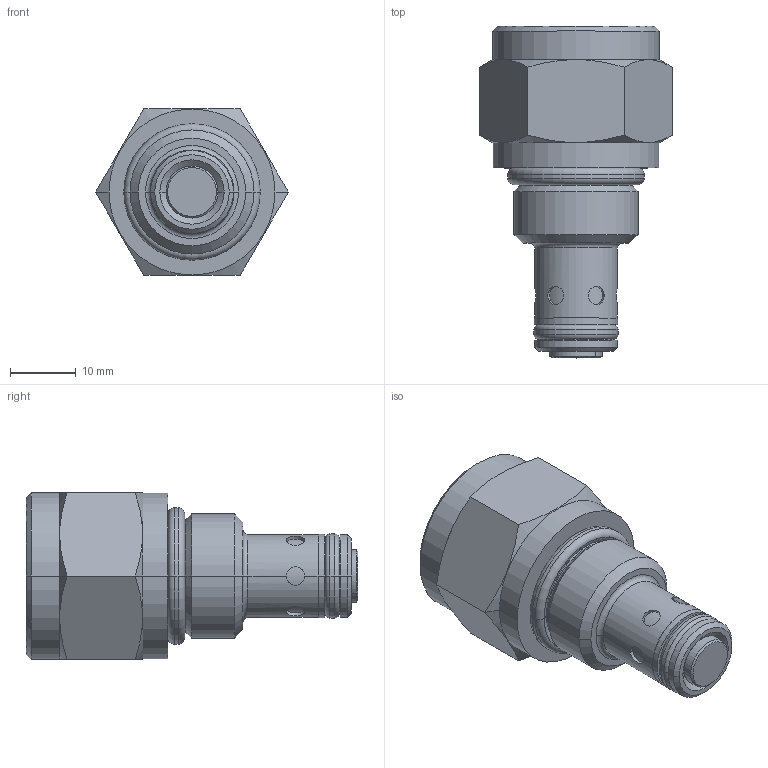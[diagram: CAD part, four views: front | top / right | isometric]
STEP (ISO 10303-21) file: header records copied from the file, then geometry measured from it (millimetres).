
FILE_DESCRIPTION((''),'2;1');
FILE_NAME('CVRP-08-_-_-OUT','2015-09-03T',('torrese'),(''),'PRO/ENGINEER BY PARAMETRIC TECHNOLOGY CORPORATION, 2015070','PRO/ENGINEER BY PARAMETRIC TECHNOLOGY CORPORATION, 2015070','');
FILE_SCHEMA(('CONFIG_CONTROL_DESIGN','GEOMETRIC_VALIDATION_PROPERTIES_MIM'));
Length unit declared in the file: inch
Products named in the file (1): CVRP-08-_-_-OUT
Bounding box: 29.33 x 50.52 x 25.4 mm (x, y, z)
Volume: 16838.4 mm3; surface area: 4524.4 mm2
Topology: 1 solids, 1 shells, 96 faces, 196 edges, 116 vertices
Faces by surface type: cylinder 46, plane 18, cone 18, torus 14
Entity records: 6148 total; most frequent: CARTESIAN_POINT 2882, DIRECTION 446, ORIENTED_EDGE 392, PRESENTATION_STYLE_ASSIGNMENT 266, STYLED_ITEM 199, CURVE_STYLE 196, EDGE_CURVE 196, AXIS2_PLACEMENT_3D 190
